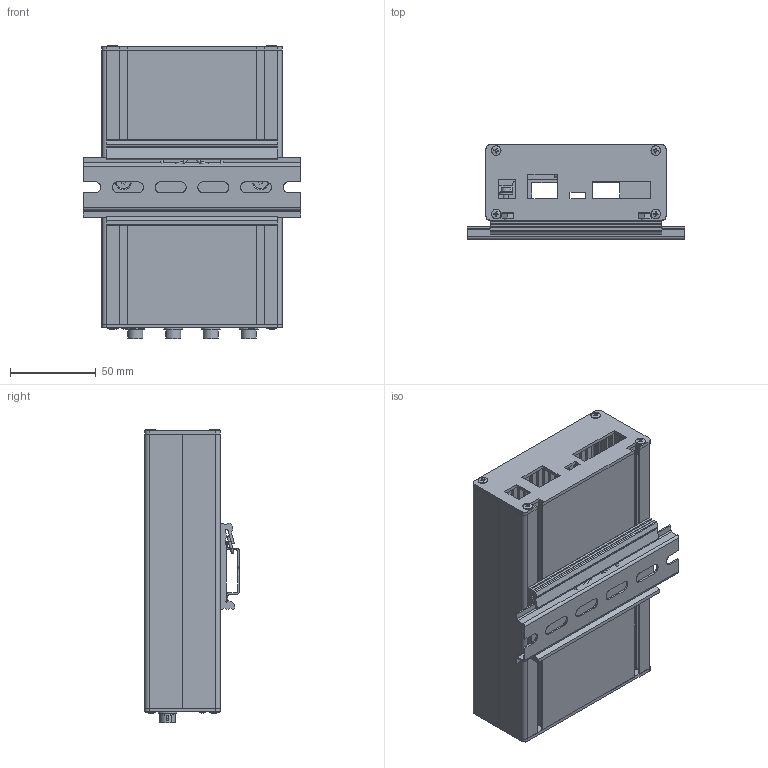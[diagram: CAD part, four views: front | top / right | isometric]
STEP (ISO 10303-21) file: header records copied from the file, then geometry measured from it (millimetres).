
FILE_DESCRIPTION (( 'STEP AP203' ), '1' );
FILE_NAME ('146-780-00.STEP', '2021-11-08T08:56:21', ( '' ), ( '' ), 'SwSTEP 2.0', 'SolidWorks 2020', '' );
FILE_SCHEMA (( 'CONFIG_CONTROL_DESIGN' ));
Length unit declared in the file: millimetre
Products named in the file (17): 147-538-00; 146-716-00; 132-281-01_01; 146-787-00; Copy of DIN 7991_-_DIN7991 M4x8^146-780-00_DIN7991 M4x8; 146-721-00; 146-786-00; 146-788-00; 146-720-00; 146-780-00; 146-822-00; 146-714-00; 132-721-00_Einbau; Copy of DIN934 M4^146-780-00; 146-715-00; 133-814-00_Einbau; Copy of dn-r35s1^146-780-00
Assembly tree (36 placements, depth 3):
  146-780-00
    146-714-00
    146-715-00
    146-716-00
    146-720-00
    146-721-00
    146-786-00  x8
    146-787-00  x5
    146-788-00  x5
    133-814-00_Einbau  x4
      132-281-01_01
      132-721-00_Einbau
    146-822-00
    Copy of dn-r35s1^146-780-00
    147-538-00
    Copy of DIN 7991_-_DIN7991 M4x8^146-780-00_DIN7991 M4x8  x2
    Copy of DIN934 M4^146-780-00  x2
Bounding box: 127 x 55.12 x 171.08 mm (x, y, z)
Volume: 191381 mm3; surface area: 185692.1 mm2
Topology: 17 solids, 110 shells, 2642 faces, 6943 edges, 4536 vertices
Faces by surface type: plane 1355, cylinder 677, cone 389, bspline 221
Full cylindrical faces by diameter (mm): 0.702 x24, 0.8 x32, 1.5 x6, 2.642 x5, 2.845 x5, 2.896 x5, 3 x134, 3.099 x5, 3.302 x5, 3.4 x8, 4 x4, 4.318 x5, 4.8 x2, 5.6 x12, 5.7 x4, 6.6 x4, 8 x6, 8.3 x4, 8.85 x4, 11 x4
Entity records: 36911 total; most frequent: CARTESIAN_POINT 9272, DIRECTION 5050, ORIENTED_EDGE 4950, EDGE_CURVE 2652, VERTEX_POINT 1931, LINE 1892, VECTOR 1892, AXIS2_PLACEMENT_3D 1579
